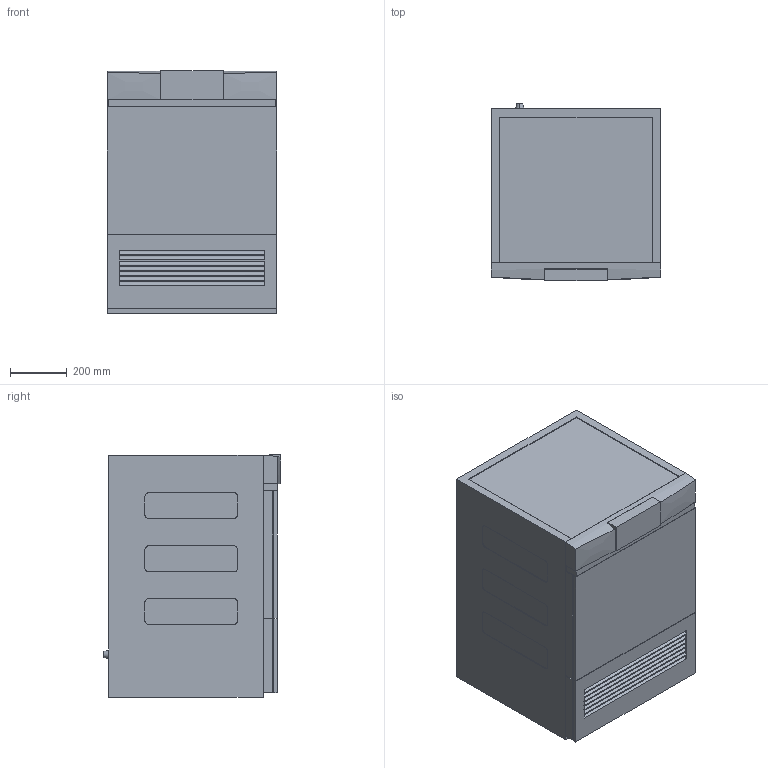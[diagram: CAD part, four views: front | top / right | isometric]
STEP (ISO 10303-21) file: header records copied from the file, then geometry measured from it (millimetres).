
FILE_DESCRIPTION(/* description */ (''),/* implementation_level */ '2;1');
FILE_NAME(/* name */ 'X1201165004-A',/* time_stamp */ '2025-02-05T08:56:15+01:00',/* author */ (''),/* organization */ (''),/* preprocessor_version */ 'ST-DEVELOPER v16.5',/* originating_system */ 'Rhino 7.36',/* authorisation */ '');
FILE_SCHEMA (('AUTOMOTIVE_DESIGN'));
Length unit declared in the file: millimetre
Products named in the file (1): Document
Bounding box: 595 x 624.82 x 851.5 mm (x, y, z)
Volume: 297407070.9 mm3; surface area: 4066004.5 mm2
Topology: 7 solids, 7 shells, 142 faces, 345 edges, 230 vertices
Faces by surface type: plane 106, cylinder 32, bspline 4
Entity records: 3717 total; most frequent: CARTESIAN_POINT 1220, ORIENTED_EDGE 690, EDGE_CURVE 345, B_SPLINE_CURVE_WITH_KNOTS 275, VERTEX_POINT 230, EDGE_LOOP 155, ADVANCED_FACE 142, FACE_OUTER_BOUND 142
